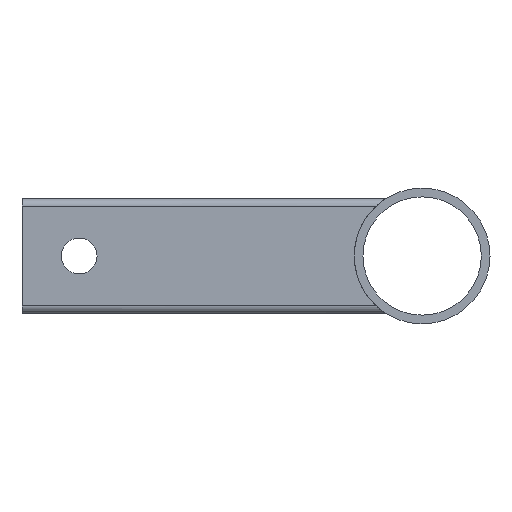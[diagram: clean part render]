
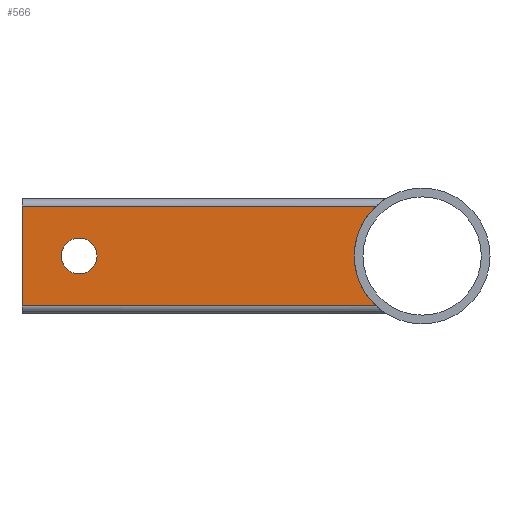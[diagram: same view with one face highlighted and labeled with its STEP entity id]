
A CAD part, front view. The second image highlights one B-rep face of the part: STEP entity #566.
In plain terms, the highlighted planar face has unit normal (0, -1, 0).
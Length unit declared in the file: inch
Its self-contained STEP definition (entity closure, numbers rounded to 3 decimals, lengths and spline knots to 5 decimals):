
#15=FACE_BOUND('',#119,.T.);
#34=CIRCLE('',#623,1.1875);
#37=CIRCLE('',#626,1.1875);
#39=CIRCLE('',#630,0.3125);
#65=PLANE('',#634);
#89=FACE_OUTER_BOUND('',#118,.T.);
#118=EDGE_LOOP('',(#454,#455,#456,#457,#458));
#119=EDGE_LOOP('',(#459));
#149=LINE('',#899,#187);
#150=LINE('',#902,#188);
#157=LINE('',#918,#195);
#187=VECTOR('',#692,0.3937);
#188=VECTOR('',#695,0.3937);
#195=VECTOR('',#706,0.3937);
#230=VERTEX_POINT('',#884);
#231=VERTEX_POINT('',#886);
#232=VERTEX_POINT('',#901);
#239=VERTEX_POINT('',#917);
#253=VERTEX_POINT('',#966);
#257=VERTEX_POINT('',#981);
#291=EDGE_CURVE('',#231,#230,#149,.T.);
#292=EDGE_CURVE('',#232,#230,#150,.T.);
#300=EDGE_CURVE('',#232,#239,#157,.T.);
#320=EDGE_CURVE('',#253,#231,#34,.T.);
#324=EDGE_CURVE('',#239,#253,#37,.T.);
#328=EDGE_CURVE('',#257,#257,#39,.T.);
#454=ORIENTED_EDGE('',*,*,#291,.F.);
#455=ORIENTED_EDGE('',*,*,#320,.F.);
#456=ORIENTED_EDGE('',*,*,#324,.F.);
#457=ORIENTED_EDGE('',*,*,#300,.F.);
#458=ORIENTED_EDGE('',*,*,#292,.T.);
#459=ORIENTED_EDGE('',*,*,#328,.T.);
#566=ADVANCED_FACE('',(#89,#15),#65,.F.);
#623=AXIS2_PLACEMENT_3D('',#968,#743,#744);
#626=AXIS2_PLACEMENT_3D('',#974,#750,#751);
#630=AXIS2_PLACEMENT_3D('',#982,#760,#761);
#634=AXIS2_PLACEMENT_3D('',#989,#771,#772);
#692=DIRECTION('',(-1.,0.,0.));
#695=DIRECTION('',(0.,0.,-1.));
#706=DIRECTION('',(1.,0.,0.));
#743=DIRECTION('center_axis',(0.,-1.,0.));
#744=DIRECTION('ref_axis',(1.,0.,0.));
#750=DIRECTION('center_axis',(0.,-1.,0.));
#751=DIRECTION('ref_axis',(1.,0.,0.));
#760=DIRECTION('center_axis',(0.,1.,0.));
#761=DIRECTION('ref_axis',(-1.,0.,0.));
#771=DIRECTION('center_axis',(0.,1.,0.));
#772=DIRECTION('ref_axis',(0.,0.,1.));
#884=CARTESIAN_POINT('',(-7.,16.,-0.87));
#886=CARTESIAN_POINT('',(-0.80824,16.,-0.87));
#899=CARTESIAN_POINT('',(-1.75,16.,-0.87));
#901=CARTESIAN_POINT('',(-7.,16.,0.87));
#902=CARTESIAN_POINT('',(-7.,16.,-0.8));
#917=CARTESIAN_POINT('',(-0.80824,16.,0.87));
#918=CARTESIAN_POINT('',(-5.25,16.,0.87));
#966=CARTESIAN_POINT('',(-1.1875,16.,0.));
#968=CARTESIAN_POINT('Origin',(0.,16.,0.));
#974=CARTESIAN_POINT('Origin',(0.,16.,0.));
#981=CARTESIAN_POINT('',(-5.6875,16.,0.));
#982=CARTESIAN_POINT('Origin',(-6.,16.,0.));
#989=CARTESIAN_POINT('Origin',(-3.5,16.,-0.9));
